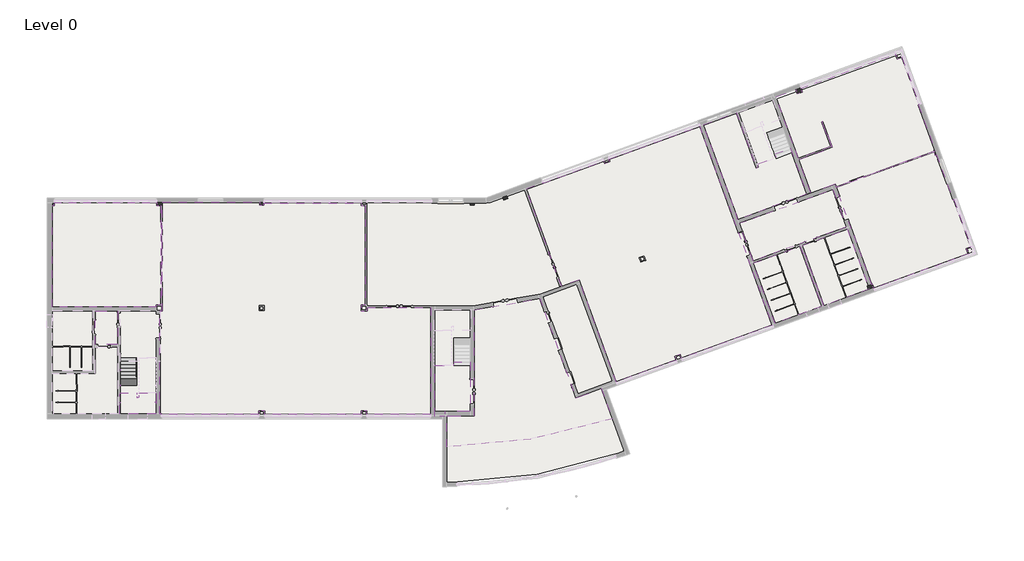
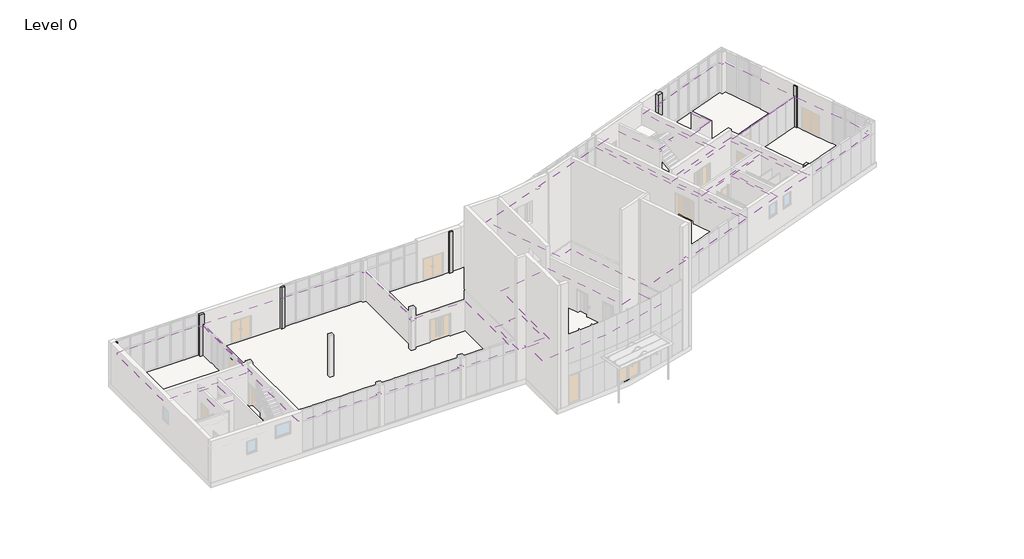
# One storey, part 10 of 14: 12 coverings, 8 columns, 4 proxies, 2 slabs, 1 stair flight.
"""IFC4 building model written with IfcOpenShell, lengths in millimetres."""

from ifc_helpers import new_model, si_unit, point, frame, frame_2d, origin, origin_with_axes, place, context, project, spatial, polyline, circle_curve, trimmed, segment, composite_curve, outline, extrude, faceted_brep, transform, mapped, element, save
from components import support_metal_circular_support_metal_circular_016e83f0

model = new_model("IFC4")

# Units and contexts
model_context = context("Model", 3, world=origin())
ifc_project = project(units=[si_unit("LENGTHUNIT", "METRE", prefix="MILLI")], contexts=[model_context])

# Site, building, storey
site = spatial("IfcSite", under=ifc_project)
building = spatial("IfcBuilding", under=site)
storey = spatial("IfcBuildingStorey", under=building, Name="Level 0", Elevation=0.0)

# Proxies
placement = place(None, origin())
support_metal_circular_support_metal_circular_shape = support_metal_circular_support_metal_circular_016e83f0(model_context)
element("IfcBuildingElementProxy", 1, Name="Support - Metal - Circular : Support - Metal - Circular", ObjectType="Support - Metal - Circular : Support - Metal - Circular", at=placement, inside=storey, context=model_context, shape_type="MappedRepresentation", body=[
    mapped(support_metal_circular_support_metal_circular_shape, transform((5322.6000024, 3439.4755703, 1669.5820057), x_axis=(0.0, 1.0, 0.0), y_axis=(-1.0, 0.0, 0.0), z_axis=(0.0, 0.0, 1.0))),
])
element("IfcBuildingElementProxy", 2, Name="Support - Metal - Circular : Support - Metal - Circular", ObjectType="Support - Metal - Circular : Support - Metal - Circular", at=placement, inside=storey, context=model_context, shape_type="MappedRepresentation", body=[
    mapped(support_metal_circular_support_metal_circular_shape, transform((5322.6000024, 2334.2312733, 2453.300689), x_axis=(0.0, 1.0, 0.0), y_axis=(-1.0, 0.0, 0.0), z_axis=(0.0, 0.0, 1.0))),
])
element("IfcBuildingElementProxy", 3, Name="Support - Metal - Circular : Support - Metal - Circular", ObjectType="Support - Metal - Circular : Support - Metal - Circular", at=placement, inside=storey, context=model_context, shape_type="MappedRepresentation", body=[
    mapped(support_metal_circular_support_metal_circular_shape, transform((5322.6000024, 1100.0, 2832.1192282), x_axis=(0.0, 1.0, 0.0), y_axis=(-1.0, 0.0, 0.0), z_axis=(0.0, 0.0, 1.0))),
])
element("IfcBuildingElementProxy", 4, Name="Support - Metal - Circular : Support - Metal - Circular", ObjectType="Support - Metal - Circular : Support - Metal - Circular", at=placement, inside=storey, context=model_context, shape_type="MappedRepresentation", body=[
    mapped(support_metal_circular_support_metal_circular_shape, transform((7761.8000023, 1150.0, 2832.1192282), x_axis=(0.0, -1.0, 0.0), y_axis=(1.0, 0.0, 0.0), z_axis=(0.0, 0.0, 1.0))),
])

# Columns
element("IfcColumn", 5, ObjectType="Columns_Rectangular : 300x300mm", at=placement, inside=storey, context=model_context, shape_type="SweptSolid", body=[
    extrude(outline(polyline([(562.2000028, 15173.2000005), (433.0000024, 15173.2000005), (433.0000025, 15351.4000013), (562.2000028, 15351.4000013), (562.2000028, 15173.2000005)])), origin_with_axes(), (0.0, 0.0, 1.0), 3900.0),
])
element("IfcColumn", 6, ObjectType="Columns_Rectangular : 300x300mm", at=placement, inside=storey, context=model_context, shape_type="SweptSolid", body=[
    extrude(outline(polyline([(32891.9713576, 15685.7159924), (32610.0635714, 15583.1099494), (32541.5911387, 15771.236412), (32823.498925, 15873.842455), (32891.9713576, 15685.7159924)])), origin_with_axes(), (0.0, 0.0, 1.0), 3900.0),
])
element("IfcColumn", 7, ObjectType="Columns_Rectangular : 300x300mm", at=placement, inside=storey, context=model_context, shape_type="SweptSolid", body=[
    extrude(outline(polyline([(30512.2000025, 15213.2000005), (30212.2000025, 15213.2000005), (30212.2000025, 15351.4000004), (30512.2000025, 15351.4000004), (30512.2000025, 15213.2000005)])), origin_with_axes(), (0.0, 0.0, 1.0), 3900.0),
])
element("IfcColumn", 8, ObjectType="Columns_Rectangular : 300x300mm", at=placement, inside=storey, context=model_context, shape_type="Brep", body=[
    faceted_brep([(63263.387227, 19077.9273787, 3900.0), (63365.99327, 18796.0195924, 3900.0), (63459.9625309, 18830.2216063, 3900.0), (63357.356488, 19112.1293926, 3900.0), (63459.9625309, 18830.2216063, 0.0), (63365.99327, 18796.0195924, 0.0), (63279.6331838, 19033.2919792, 0.0), (63271.0826803, 19056.7842947, 0.0), (63263.387227, 19077.9273787, 0.0), (63357.356488, 19112.1293926, 0.0)], [[[0, 1, 2, 3]], [[4, 5, 6, 7, 8, 9]], [[8, 0, 3, 9]], [[1, 0, 8, 7, 6, 5]], [[1, 5, 4, 2]], [[3, 2, 4, 9]]]),
])
element("IfcColumn", 9, ObjectType="Columns_Rectangular : 300x300mm", at=placement, inside=storey, context=model_context, shape_type="SweptSolid", body=[
    extrude(outline(polyline([(15512.2000024, 15213.2000005), (15212.2000024, 15213.2000005), (15212.2000024, 15413.4000007), (15512.2000024, 15413.4000007), (15512.2000024, 15213.2000005)])), origin_with_axes(), (0.0, 0.0, 1.0), 3900.0),
])
element("IfcColumn", 10, ObjectType="Columns_Rectangular : 400x400mm", at=placement, inside=storey, context=model_context, shape_type="Brep", body=[
    faceted_brep([(7887.2000028, 15163.2000005, 3900.0), (8287.2000028, 15163.2000005, 3900.0), (8287.2000028, 15413.4000008, 3900.0), (7887.2000028, 15413.4000008, 3900.0), (7887.2000028, 15413.4000008, 0.0), (8287.2000028, 15413.4000008, 0.0), (8287.2000028, 15188.4000008, 0.0), (8167.2000028, 15188.4000008, 0.0), (8167.2000028, 15163.2000005, 0.0), (7887.2000028, 15163.2000005, 0.0), (8167.2000028, 15163.2000005, 2900.0), (8287.2000028, 15163.2000005, 2900.0), (8287.2000028, 15188.4000008, 2900.0), (8167.2000028, 15188.4000008, 2900.0)], [[[0, 1, 2, 3]], [[4, 5, 6, 7, 8, 9]], [[9, 0, 3, 4]], [[1, 0, 9, 8, 10, 11]], [[2, 1, 11, 12, 6, 5]], [[3, 2, 5, 4]], [[7, 13, 10, 8]], [[13, 7, 6, 12]], [[13, 12, 11, 10]]]),
])
element("IfcColumn", 11, ObjectType="Columns_Rectangular : 400x400mm", at=placement, inside=storey, context=model_context, shape_type="SweptSolid", body=[
    extrude(outline(polyline([(53911.2024396, 23282.8815641), (53535.3253912, 23146.0735068), (53428.5467025, 23439.4455429), (53804.4237508, 23576.2536002), (53911.2024396, 23282.8815641)])), origin_with_axes(), (0.0, 0.0, 1.0), 3900.0),
])
element("IfcColumn", 12, ObjectType="Columns_Rectangular : 400x400mm", at=placement, inside=storey, context=model_context, shape_type="Brep", body=[
    faceted_brep([(58904.6965317, 9563.3693005, 3900.0), (58528.8194834, 9426.5612432, 3900.0), (58614.3929232, 9191.4501495, 3900.0), (58990.2699716, 9328.2582068, 3900.0), (58614.3929232, 9191.4501495, 0.0), (58528.8194834, 9426.5612432, 0.0), (58622.7887454, 9460.7632574, 0.0), (58857.7119006, 9546.2682933, 0.0), (58904.6965317, 9563.3693005, 0.0), (58990.2699716, 9328.2582068, 0.0)], [[[0, 1, 2, 3]], [[4, 5, 6, 7, 8, 9]], [[1, 0, 8, 7, 6, 5]], [[1, 5, 4, 2]], [[8, 0, 3, 9]], [[3, 2, 4, 9]]]),
])

# Coverings
element("IfcCovering", 13, ObjectType="600x600mm_Grid", at=placement, inside=storey, context=model_context, shape_type="SweptSolid", body=[
    extrude(outline(polyline([(22882.3447354, 7663.2000003), (22882.3447354, 7893.2000004), (27412.2000031, 7893.2000005), (27412.2000029, 269.9999995), (22862.3447354, 269.9999995), (22862.3447354, 538.199999), (22462.2000028, 538.199999), (22462.2000028, 269.9999995), (15562.3447355, 269.9999995), (15562.3447355, 538.199999), (15162.2000029, 538.199999), (15162.2000029, 269.9999995), (8187.2000027, 269.9999995), (8187.2000027, 313.0000001), (8087.2000022, 313.0000001), (8087.2000024, 7638.2000005), (8287.2000028, 7638.2000005), (8287.2000028, 15413.4000008), (15212.2000024, 15413.4000007), (15212.2000024, 15213.2000005), (15512.2000024, 15213.2000005), (15512.2000024, 15363.2000005), (22462.2000028, 15363.2000005), (22462.2000028, 15188.2000019), (22742.3447354, 15188.2000019), (22742.3447354, 8063.2000003), (22462.2000024, 8063.2000003), (22462.2000024, 7663.2000003), (22882.3447354, 7663.2000003)]), holes=[polyline([(15537.2000025, 7688.2000003), (15537.2000025, 8038.2000003), (15187.2000024, 8038.2000003), (15187.2000024, 7688.2000003), (15537.2000025, 7688.2000003)])]), frame((0.0, 0.0, 2800.0), z_axis=(0.0, 0.0, 1.0), x_axis=(1.0, 0.0, 0.0)), (0.0, 0.0, 1.0), 52.0),
])
element("IfcCovering", 14, ObjectType="600x600mm_Grid", at=placement, inside=storey, context=model_context, shape_type="SweptSolid", body=[
    extrude(outline(polyline([(37985.6557273, 9877.5855238), (36735.8645417, 9422.6987332), (34204.8470773, 16376.6120655), (35384.1613169, 16805.8473456), (35396.8160621, 16771.0787187), (39742.8264311, 18352.8971307), (39807.1946218, 18176.0469802), (40183.0716701, 18312.8550375), (40118.7034794, 18489.705188), (46579.1582494, 20841.1184239), (51752.691745, 6626.9519648), (45292.236975, 4275.5387287), (45193.66677, 4546.3581414), (44817.7897216, 4409.5500841), (44916.3599267, 4138.7306713), (40640.8265039, 2582.5637698), (37985.6557273, 9877.5855238)]), holes=[polyline([(42724.7984316, 11256.6346278), (42605.0913814, 11585.5270451), (42276.1989642, 11465.8199949), (42395.9060144, 11136.9275777), (42724.7984316, 11256.6346278)])]), frame((0.0, 0.0, 2800.0), z_axis=(0.0, 0.0, 1.0), x_axis=(1.0, 0.0, 0.0)), (0.0, 0.0, 1.0), 52.0),
])
element("IfcCovering", 15, ObjectType="600x600mm_Grid", at=placement, inside=storey, context=model_context, shape_type="SweptSolid", body=[
    extrude(outline(polyline([(28408.3766929, 146.0000008), (27712.2000028, 146.0000009), (27712.200003, 3763.2000006), (29052.2000029, 3763.2000006), (29052.2000029, 4013.2000006), (30212.2000024, 4013.2000006), (30212.2000023, 470.0000006), (28408.3766929, 470.0000006), (28408.3766929, 146.0000008)])), frame((0.0, 0.0, 2800.0), z_axis=(0.0, 0.0, 1.0), x_axis=(1.0, 0.0, 0.0)), (0.0, 0.0, 1.0), 52.0),
])
element("IfcCovering", 16, ObjectType="600x600mm_Grid", at=placement, inside=storey, context=model_context, shape_type="SweptSolid", body=[
    extrude(outline(polyline([(50622.8530138, 17860.8385478), (50776.9710581, 17916.9066227), (50697.0762506, 18136.4158024), (52050.0788572, 18628.8684779), (51964.5738214, 18863.791633), (53045.2203355, 19257.1147979), (54237.3999491, 15981.6282294), (49318.7201794, 14191.3752015), (46856.9617939, 20955.0007783), (49187.8828531, 21803.3866622), (50622.8530138, 17860.8385478)])), frame((0.0, 0.0, 2800.0), z_axis=(0.0, 0.0, 1.0), x_axis=(1.0, 0.0, 0.0)), (0.0, 0.0, 1.0), 52.0),
])
element("IfcCovering", 17, ObjectType="600x600mm_Grid", at=placement, inside=storey, context=model_context, shape_type="SweptSolid", body=[
    extrude(outline(polyline([(50396.1862368, 11231.0615383), (49421.3262224, 13909.4674153), (56069.6515144, 16329.2599291), (57044.5115288, 13650.8540521), (50396.1862368, 11231.0615383)])), frame((0.0, 0.0, 2800.0), z_axis=(0.0, 0.0, 1.0), x_axis=(1.0, 0.0, 0.0)), (0.0, 0.0, 1.0), 52.0),
])
element("IfcCovering", 18, ObjectType="600x600mm_Grid", at=placement, inside=storey, context=model_context, shape_type="SweptSolid", body=[
    extrude(outline(polyline([(59011.8172406, 9269.0575717), (58904.6965317, 9563.3693005), (58857.7119006, 9546.2682933), (56325.9077899, 16502.3429187), (63256.1408745, 19024.7414778), (63351.0514643, 18763.9767754), (63468.5130346, 18806.7292907), (64639.3163891, 15589.9735111), (64698.5170243, 15611.5207802), (65929.7895403, 12228.6273452), (65588.6811194, 12104.4740334), (65730.6194788, 11714.5015961), (59011.8172406, 9269.0575717)])), frame((0.0, 0.0, 2800.0), z_axis=(0.0, 0.0, 1.0), x_axis=(1.0, 0.0, 0.0)), (0.0, 0.0, 1.0), 52.0),
])
element("IfcCovering", 19, ObjectType="600x600mm_Grid", at=placement, inside=storey, context=model_context, shape_type="SweptSolid", body=[
    extrude(outline(polyline([(52027.7935973, 22929.6131071), (53428.5467025, 23439.4455429), (53535.3253912, 23146.0735068), (53911.2024395, 23282.8815641), (53817.0784962, 23541.4849732), (60535.8807344, 25986.9289976), (60664.8223283, 25632.6648797), (61005.9307492, 25756.8181916), (62237.203265, 22373.9247568), (62178.0026297, 22352.3774878), (63373.6024448, 19067.4939931), (56325.9077899, 16502.3429187), (56248.9532577, 16713.7737583), (54519.3077353, 16084.2342724), (53655.7108186, 18456.9473006), (56049.57777, 19328.2436156), (55378.2834324, 21172.6096503), (55289.0126334, 21140.1177367), (55927.8150575, 19385.0225009), (53623.218905, 18546.2180995), (52027.7935973, 22929.6131071)])), frame((0.0, 0.0, 2800.0), z_axis=(0.0, 0.0, 1.0), x_axis=(1.0, 0.0, 0.0)), (0.0, 0.0, 1.0), 52.0),
])
element("IfcCovering", 20, ObjectType="600x600mm_Grid", at=placement, inside=storey, context=model_context, shape_type="SweptSolid", body=[
    extrude(outline(composite_curve([segment(polyline([(35172.4630866, 8542.9751377), (37756.3380613, 1443.836992), (39586.2234059, 2109.8607895), (40371.8140424, -48.5317453)]), True, "CONTINUOUS"), segment(trimmed(circle_curve(frame_2d((28027.924496, 36998.4991929)), 39049.3804108), [point((40371.8140424, -48.5317453))], [point((28564.8766926, -2047.1893375))], False, "CARTESIAN"), True, "CONTINUOUS"), segment(polyline([(28564.8766926, -2047.1893375), (28564.8766928, 170.0000006), (30512.2000023, 170.0000006), (30512.2000024, 7721.2450188), (35172.4630866, 8542.9751377)]), True, "CONTINUOUS")], self_intersect=False)), frame((0.0, 0.0, 2800.0), z_axis=(0.0, 0.0, 1.0), x_axis=(1.0, 0.0, 0.0)), (0.0, 0.0, 1.0), 52.0),
])
element("IfcCovering", 21, ObjectType="600x600mm_Grid", at=placement, inside=storey, context=model_context, shape_type="SweptSolid", body=[
    extrude(outline(polyline([(7887.2000028, 15388.9000009), (7887.2000028, 15163.2000005), (8167.2000028, 15163.2000005), (8167.2000028, 8063.2000005), (7837.2000024, 8063.2000005), (7837.2000024, 7938.2000004), (433.0000013, 7938.2000004), (433.0000024, 15173.2000005), (562.2000028, 15173.2000005), (562.2000028, 15388.9000009), (7887.2000028, 15388.9000009)])), frame((0.0, 0.0, 2800.0), z_axis=(0.0, 0.0, 1.0), x_axis=(1.0, 0.0, 0.0)), (0.0, 0.0, 1.0), 52.0),
])
element("IfcCovering", 22, ObjectType="Plain", at=placement, inside=storey, context=model_context, shape_type="SweptSolid", body=[
    extrude(outline(polyline([(55295.3985864, 7983.4350033), (51966.0676312, 6771.6576357), (50405.2929092, 11059.8509413), (53734.6238645, 12271.628309), (55295.3985864, 7983.4350033)])), frame((0.0, 0.0, 2800.0), z_axis=(0.0, 0.0, 1.0), x_axis=(1.0, 0.0, 0.0)), (0.0, 0.0, 1.0), 57.0),
])
element("IfcCovering", 23, ObjectType="Plain", at=placement, inside=storey, context=model_context, shape_type="SweptSolid", body=[
    extrude(outline(polyline([(58661.3775542, 9208.5511566), (55449.5081762, 8039.5263068), (53888.7334543, 12327.7196125), (57100.6028323, 13496.7444623), (58661.3775542, 9208.5511566)])), frame((0.0, 0.0, 2800.0), z_axis=(0.0, 0.0, 1.0), x_axis=(1.0, 0.0, 0.0)), (0.0, 0.0, 1.0), 57.0),
])
element("IfcCovering", 24, ObjectType="Plain", at=placement, inside=storey, context=model_context, shape_type="SweptSolid", body=[
    extrude(outline(polyline([(5095.2000024, 5250.0000001), (3496.5000006, 5250.0000005), (3496.5000006, 7638.2000004), (5095.2000024, 7638.2000004), (5095.2000024, 5250.0000001)])), frame((0.0, 0.0, 2800.0), z_axis=(0.0, 0.0, 1.0), x_axis=(1.0, 0.0, 0.0)), (0.0, 0.0, 1.0), 57.0),
])

# Slabs
element("IfcSlab", 25, ObjectType="200mm_Thickness", at=placement, inside=storey, context=model_context, shape_type="SolidModel", body=[
    faceted_brep([(6447.2000024, 1800.0, 1949.0), (5247.2000024, 1800.0, 1949.0), (5247.2000024, 1572.7280846, 1949.0), (5247.2000024, 300.0000001, 1949.0), (7837.2000023, 300.0000001, 1949.0), (7837.2000023, 1777.2719153, 1949.0), (7837.2000023, 1800.0, 1949.0), (6637.2000025, 1800.0, 1949.0), (6637.2000025, 1777.2719153, 1949.0), (6637.2000025, 1500.0, 1949.0), (6447.2000024, 1500.0, 1949.0), (6447.2000024, 1572.7280846, 1949.0), (6447.2000024, 1800.0, 1587.8435509), (6447.2000024, 1800.0, 1771.7272727), (6447.2000024, 1500.0, 1749.0), (6447.2000024, 1572.7280846, 1749.0), (5247.2000024, 1800.0, 1771.7272727), (5247.2000024, 1800.0, 1587.8435509), (5247.2000024, 1572.7280846, 1749.0), (5247.2000024, 300.0000001, 1749.0), (6637.2000025, 1800.0, 1765.1162782), (6637.2000025, 1777.2719153, 1749.0), (6637.2000025, 1500.0, 1749.0), (7837.2000023, 1777.2719153, 1749.0), (7837.2000023, 300.0000001, 1749.0), (7837.2000023, 1800.0, 1765.1162782)], [[[0, 1, 2, 3, 4, 5, 6, 7, 8, 9, 10, 11]], [[12, 13, 0, 11, 10, 14, 15]], [[1, 16, 17, 18, 19, 3, 2]], [[7, 20, 21, 22, 9, 8]], [[18, 15, 14, 22, 21, 23, 24, 19]], [[15, 18, 17, 12]], [[23, 21, 20, 25]], [[1, 0, 13, 12, 17, 16]], [[4, 3, 19, 24]], [[4, 24, 23, 25, 6, 5]], [[7, 6, 25, 20]], [[10, 9, 22, 14]]]),
    extrude(outline(polyline([(6447.2000024, 1800.0), (6447.2000024, 1500.0), (6637.2000025, 1500.0), (6637.2000025, 1800.0), (7837.2000023, 1800.0), (7837.2000023, 300.0000001), (5247.2000024, 300.0000001), (5247.2000024, 1800.0), (6447.2000024, 1800.0)])), frame((0.0, 0.0, 1949.0), z_axis=(0.0, 0.0, 1.0), x_axis=(1.0, 0.0, 0.0)), (0.0, 0.0, 1.0), 1.0),
])
element("IfcSlab", 26, ObjectType="Generic 150mm", at=placement, inside=storey, context=model_context, shape_type="SweptSolid", body=[
    extrude(outline(composite_curve([segment(trimmed(circle_curve(frame_2d((28251.8766926, 34165.8732259)), 38761.3804108), [point((41238.0521583, -2355.4062989))], [point((28539.8766925, -4594.4372393))], False, "CARTESIAN"), True, "CONTINUOUS"), segment(polyline([(28539.8766925, -4594.4372393), (28539.8766928, 300.0000005), (407.9999989, 313.0000007), (408.0000013, 15363.2000005), (31601.9396293, 15363.2000005), (60886.1238516, 25974.8803698), (66023.0228145, 11861.366462), (39568.1602739, 2232.5839466), (41238.0521583, -2355.4062989)]), True, "CONTINUOUS")], self_intersect=False)), frame((0.0, 0.0, -140.0), z_axis=(0.0, 0.0, 1.0), x_axis=(1.0, 0.0, 0.0)), (0.0, 0.0, 1.0), 140.0),
])

# Stair flight
element("IfcStairFlight", 27, ObjectType="1mm_Tread-150mm_Depth", at=placement, inside=storey, context=model_context, shape_type="SolidModel", body=[
    faceted_brep([(6447.2000024, 4050.0, 176.2727273), (6447.2000024, 4300.0, 176.2727273), (5247.2000024, 4300.0, 176.2727273), (5247.2000024, 4050.0, 176.2727273), (6447.2000024, 4050.0, 0.0), (6447.2000024, 4300.0, 0.0), (5247.2000024, 4300.0, 0.0), (5247.2000024, 4050.0, 0.0), (6447.2000024, 3800.0, 353.5454545), (6447.2000024, 4050.0, 353.5454545), (5247.2000024, 4050.0, 353.5454545), (5247.2000024, 3800.0, 353.5454545), (6447.2000024, 3800.0, 169.6617328), (6447.2000024, 4039.2665462, 0.0), (5247.2000024, 4039.2665462, 0.0), (5247.2000024, 3800.0, 169.6617328), (6447.2000024, 3550.0, 530.8181818), (6447.2000024, 3800.0, 530.8181818), (5247.2000024, 3800.0, 530.8181818), (5247.2000024, 3550.0, 530.8181818), (6447.2000024, 3550.0, 346.93446), (5247.2000024, 3550.0, 346.93446), (6447.2000024, 3300.0, 708.0909091), (6447.2000024, 3550.0, 708.0909091), (5247.2000024, 3550.0, 708.0909091), (5247.2000024, 3300.0, 708.0909091), (6447.2000024, 3300.0, 524.2071873), (5247.2000024, 3300.0, 524.2071873), (6447.2000024, 3050.0, 885.3636364), (6447.2000024, 3300.0, 885.3636364), (5247.2000024, 3300.0, 885.3636364), (5247.2000024, 3050.0, 885.3636364), (6447.2000024, 3050.0, 701.4799146), (5247.2000024, 3050.0, 701.4799146), (6447.2000024, 2800.0, 1062.6363636), (6447.2000024, 3050.0, 1062.6363636), (5247.2000024, 3050.0, 1062.6363636), (5247.2000024, 2800.0, 1062.6363636), (6447.2000024, 2800.0, 878.7526418), (5247.2000024, 2800.0, 878.7526418), (6447.2000024, 2550.0, 1239.9090909), (6447.2000024, 2800.0, 1239.9090909), (5247.2000024, 2800.0, 1239.9090909), (5247.2000024, 2550.0, 1239.9090909), (6447.2000024, 2550.0, 1056.0253691), (5247.2000024, 2550.0, 1056.0253691), (6447.2000024, 2300.0, 1417.1818182), (6447.2000024, 2550.0, 1417.1818182), (5247.2000024, 2550.0, 1417.1818182), (5247.2000024, 2300.0, 1417.1818182), (6447.2000024, 2300.0, 1233.2980964), (5247.2000024, 2300.0, 1233.2980964), (6447.2000024, 2050.0, 1594.4545455), (6447.2000024, 2300.0, 1594.4545455), (5247.2000024, 2300.0, 1594.4545455), (5247.2000024, 2050.0, 1594.4545455), (6447.2000024, 2050.0, 1410.5708237), (5247.2000024, 2050.0, 1410.5708237), (6447.2000024, 1800.0, 1587.8435509), (5247.2000024, 1800.0, 1587.8435509), (6447.2000024, 1800.0, 1771.7272727), (6447.2000024, 2050.0, 1771.7272727), (5247.2000024, 2050.0, 1771.7272727), (5247.2000024, 1800.0, 1771.7272727)], [[[0, 1, 2, 3]], [[1, 0, 4, 5]], [[2, 1, 5, 6]], [[3, 2, 6, 7]], [[8, 9, 10, 11]], [[4, 0, 9, 8, 12, 13]], [[0, 3, 10, 9]], [[3, 7, 14, 15, 11, 10]], [[16, 17, 18, 19]], [[17, 16, 20, 12, 8]], [[8, 11, 18, 17]], [[19, 18, 11, 15, 21]], [[22, 23, 24, 25]], [[23, 22, 26, 20, 16]], [[16, 19, 24, 23]], [[25, 24, 19, 21, 27]], [[28, 29, 30, 31]], [[29, 28, 32, 26, 22]], [[22, 25, 30, 29]], [[31, 30, 25, 27, 33]], [[34, 35, 36, 37]], [[35, 34, 38, 32, 28]], [[28, 31, 36, 35]], [[37, 36, 31, 33, 39]], [[40, 41, 42, 43]], [[41, 40, 44, 38, 34]], [[34, 37, 42, 41]], [[43, 42, 37, 39, 45]], [[46, 47, 48, 49]], [[47, 46, 50, 44, 40]], [[40, 43, 48, 47]], [[49, 48, 43, 45, 51]], [[52, 53, 54, 55]], [[53, 52, 56, 50, 46]], [[46, 49, 54, 53]], [[55, 54, 49, 51, 57]], [[5, 4, 13, 14, 7, 6]], [[14, 13, 12, 20, 26, 32, 38, 44, 50, 56, 58, 59, 57, 51, 45, 39, 33, 27, 21, 15]], [[60, 61, 62, 63]], [[61, 60, 58, 56, 52]], [[52, 55, 62, 61]], [[63, 62, 55, 57, 59]], [[60, 63, 59, 58]]]),
    extrude(outline(polyline([(6447.2000024, 4050.0), (5247.2000024, 4050.0), (5247.2000024, 4300.0), (6447.2000024, 4300.0), (6447.2000024, 4050.0)])), frame((0.0, 0.0, 176.2727273), z_axis=(0.0, 0.0, 1.0), x_axis=(1.0, 0.0, 0.0)), (0.0, 0.0, 1.0), 1.0),
    extrude(outline(polyline([(6447.2000024, 3800.0), (5247.2000024, 3800.0), (5247.2000024, 4050.0), (6447.2000024, 4050.0), (6447.2000024, 3800.0)])), frame((0.0, 0.0, 353.5454545), z_axis=(0.0, 0.0, 1.0), x_axis=(1.0, 0.0, 0.0)), (0.0, 0.0, 1.0), 1.0),
    extrude(outline(polyline([(6447.2000024, 3550.0), (5247.2000024, 3550.0), (5247.2000024, 3800.0), (6447.2000024, 3800.0), (6447.2000024, 3550.0)])), frame((0.0, 0.0, 530.8181818), z_axis=(0.0, 0.0, 1.0), x_axis=(1.0, 0.0, 0.0)), (0.0, 0.0, 1.0), 1.0),
    extrude(outline(polyline([(6447.2000024, 3300.0), (5247.2000024, 3300.0), (5247.2000024, 3550.0), (6447.2000024, 3550.0), (6447.2000024, 3300.0)])), frame((0.0, 0.0, 708.0909091), z_axis=(0.0, 0.0, 1.0), x_axis=(1.0, 0.0, 0.0)), (0.0, 0.0, 1.0), 1.0),
    extrude(outline(polyline([(6447.2000024, 3050.0), (5247.2000024, 3050.0), (5247.2000024, 3300.0), (6447.2000024, 3300.0), (6447.2000024, 3050.0)])), frame((0.0, 0.0, 885.3636364), z_axis=(0.0, 0.0, 1.0), x_axis=(1.0, 0.0, 0.0)), (0.0, 0.0, 1.0), 1.0),
    extrude(outline(polyline([(6447.2000024, 2800.0), (5247.2000024, 2800.0), (5247.2000024, 3050.0), (6447.2000024, 3050.0), (6447.2000024, 2800.0)])), frame((0.0, 0.0, 1062.6363636), z_axis=(0.0, 0.0, 1.0), x_axis=(1.0, 0.0, 0.0)), (0.0, 0.0, 1.0), 1.0),
    extrude(outline(polyline([(6447.2000024, 2550.0), (5247.2000024, 2550.0), (5247.2000024, 2800.0), (6447.2000024, 2800.0), (6447.2000024, 2550.0)])), frame((0.0, 0.0, 1239.9090909), z_axis=(0.0, 0.0, 1.0), x_axis=(1.0, 0.0, 0.0)), (0.0, 0.0, 1.0), 1.0),
    extrude(outline(polyline([(6447.2000024, 2300.0), (5247.2000024, 2300.0), (5247.2000024, 2550.0), (6447.2000024, 2550.0), (6447.2000024, 2300.0)])), frame((0.0, 0.0, 1417.1818182), z_axis=(0.0, 0.0, 1.0), x_axis=(1.0, 0.0, 0.0)), (0.0, 0.0, 1.0), 1.0),
    extrude(outline(polyline([(6447.2000024, 2050.0), (5247.2000024, 2050.0), (5247.2000024, 2300.0), (6447.2000024, 2300.0), (6447.2000024, 2050.0)])), frame((0.0, 0.0, 1594.4545455), z_axis=(0.0, 0.0, 1.0), x_axis=(1.0, 0.0, 0.0)), (0.0, 0.0, 1.0), 1.0),
    extrude(outline(polyline([(6447.2000024, 1800.0), (5247.2000024, 1800.0), (5247.2000024, 2050.0), (6447.2000024, 2050.0), (6447.2000024, 1800.0)])), frame((0.0, 0.0, 1771.7272727), z_axis=(0.0, 0.0, 1.0), x_axis=(1.0, 0.0, 0.0)), (0.0, 0.0, 1.0), 1.0),
])

save(model, "model.ifc")
